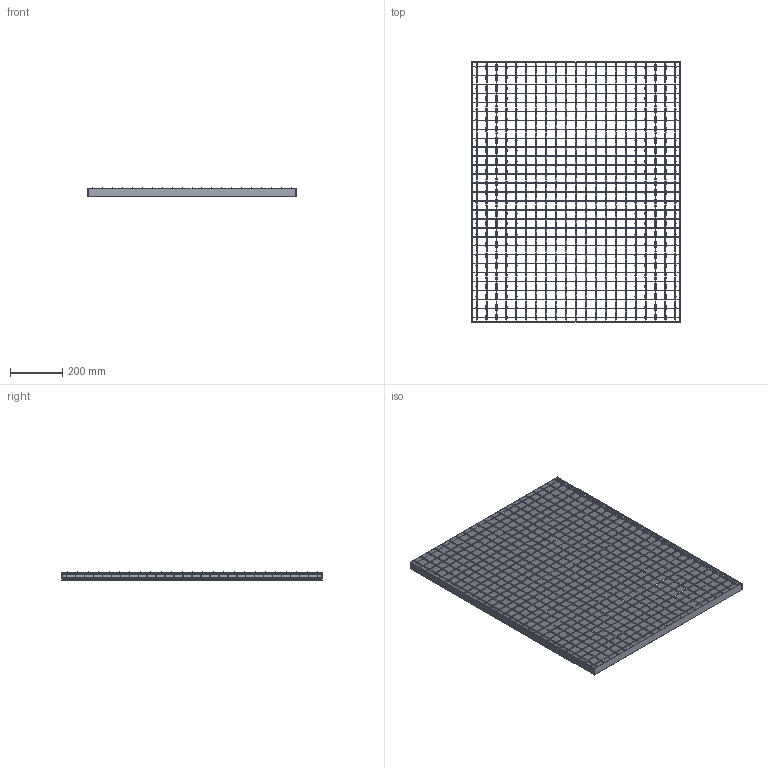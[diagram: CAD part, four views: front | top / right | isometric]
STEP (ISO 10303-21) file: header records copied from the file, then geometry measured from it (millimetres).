
FILE_DESCRIPTION(/* description */ ('STEP AP242','CAx-IF Rec.Pracs.---Representation and Presentation of Product Manufacturing Information (PMI)---4.0---2014-10-13','CAx-IF Rec.Pracs.---3D Tessellated Geometry---0.4---2014-09-14','2;1'),/* implementation_level */ '2;1');
FILE_NAME(/* name */ 'Lichtgitter_Forge_welded_gratings SP 230-34_38-2-1-1-800-1000_(350_1_0)',/* time_stamp */ '2026-04-23T13:29:23+02:00',/* author */ ('License CC BY-ND 4.0'),/* organization */ ('CADENAS'),/* preprocessor_version */ 'ST-DEVELOPER v20',/* originating_system */ 'PARTsolutions',/* authorisation */ ' ');
FILE_SCHEMA (('AP242_MANAGED_MODEL_BASED_3D_ENGINEERING_MIM_LF { 1 0 10303 442 1 1 4 }'));
Length unit declared in the file: millimetre
Products named in the file (5): Lichtgitter_Forge_welded_gratings SP 230-34/38-2-1-1-800-1000_(350_1_
0); Lichtgitter SP 230-34/38-2_(350_1_2_800_1000_Schweisspressroste)_VERT
ICAL_SIDES; Lichtgitter SP 230-34/38-2_(350_1_2_800_1000_Schweisspressroste)_HORI
ZONTAL_C; Lichtgitter SP 230-34/38-2_(350_1_2_800_1000_Schweisspressroste)_HORI
ZONTAL_SIDES; Lichtgitter SP 3.46530-34/38-3.465_(350_1_2_800_1000_Schweisspressros
te)_VERTICAL_C
Assembly tree (54 placements, depth 2):
  Lichtgitter_Forge_welded_gratings SP 230-34/38-2-1-1-800-1000_(350_1_
0)
    Lichtgitter SP 230-34/38-2_(350_1_2_800_1000_Schweisspressroste)_VERT
ICAL_SIDES  x2
    Lichtgitter SP 230-34/38-2_(350_1_2_800_1000_Schweisspressroste)_HORI
ZONTAL_C  x29
    Lichtgitter SP 230-34/38-2_(350_1_2_800_1000_Schweisspressroste)_HORI
ZONTAL_SIDES  x2
    Lichtgitter SP 3.46530-34/38-3.465_(350_1_2_800_1000_Schweisspressros
te)_VERTICAL_C  x21
Bounding box: 800 x 1000 x 30.72 mm (x, y, z)
Volume: 1823548.7 mm3; surface area: 1984788.9 mm2
Topology: 54 solids, 54 shells, 5682 faces, 12606 edges, 7032 vertices
Faces by surface type: bspline 4200, plane 857, cylinder 625
Entity records: 8479 total; most frequent: CARTESIAN_POINT 2679, ORIENTED_EDGE 1204, DIRECTION 914, EDGE_CURVE 602, LINE 540, VECTOR 540, VERTEX_POINT 336, EDGE_LOOP 274
